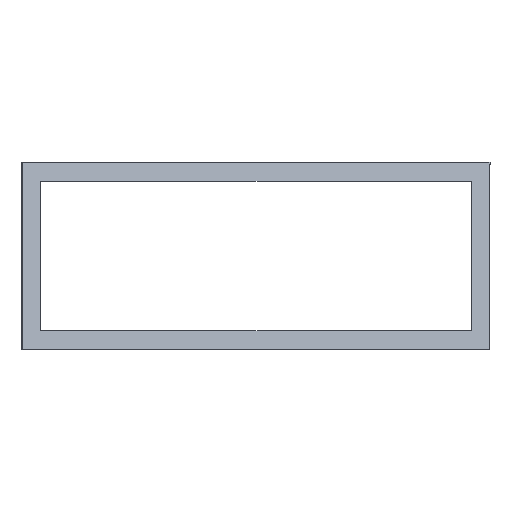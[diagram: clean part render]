
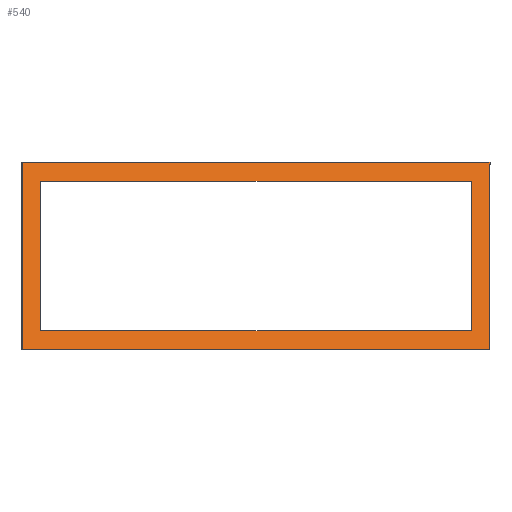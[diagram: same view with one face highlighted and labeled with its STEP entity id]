
A CAD part, left-side view. The second image highlights one B-rep face of the part: STEP entity #540.
In plain terms, the highlighted planar face has unit normal (-0.943, 0, 0.334).
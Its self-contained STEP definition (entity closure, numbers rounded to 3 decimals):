
#278=ORIENTED_EDGE('',*,*,#384,.T.);
#279=ORIENTED_EDGE('',*,*,#375,.T.);
#280=ORIENTED_EDGE('',*,*,#379,.T.);
#281=ORIENTED_EDGE('',*,*,#382,.T.);
#282=ORIENTED_EDGE('',*,*,#386,.T.);
#283=ORIENTED_EDGE('',*,*,#387,.T.);
#284=ORIENTED_EDGE('',*,*,#388,.T.);
#285=ORIENTED_EDGE('',*,*,#389,.T.);
#311=VECTOR('',#425,1.);
#315=VECTOR('',#431,1.);
#318=VECTOR('',#436,1.);
#320=VECTOR('',#440,1.);
#322=VECTOR('',#444,1.);
#323=VECTOR('',#445,1.);
#324=VECTOR('',#446,1.);
#325=VECTOR('',#447,1.);
#335=LINE('',#471,#311);
#339=LINE('',#479,#315);
#342=LINE('',#485,#318);
#344=LINE('',#488,#320);
#346=LINE('',#493,#322);
#347=LINE('',#495,#323);
#348=LINE('',#497,#324);
#349=LINE('',#498,#325);
#359=VERTEX_POINT('',#468);
#360=VERTEX_POINT('',#470);
#363=VERTEX_POINT('',#477);
#365=VERTEX_POINT('',#483);
#366=VERTEX_POINT('',#491);
#367=VERTEX_POINT('',#492);
#368=VERTEX_POINT('',#494);
#369=VERTEX_POINT('',#496);
#375=EDGE_CURVE('',#360,#359,#335,.T.);
#379=EDGE_CURVE('',#359,#363,#339,.T.);
#382=EDGE_CURVE('',#363,#365,#342,.T.);
#384=EDGE_CURVE('',#365,#360,#344,.T.);
#386=EDGE_CURVE('',#366,#367,#346,.T.);
#387=EDGE_CURVE('',#367,#368,#347,.T.);
#388=EDGE_CURVE('',#368,#369,#348,.T.);
#389=EDGE_CURVE('',#369,#366,#349,.T.);
#402=EDGE_LOOP('',(#278,#279,#280,#281));
#403=EDGE_LOOP('',(#282,#283,#284,#285));
#414=FACE_BOUND('',#402,.T.);
#415=FACE_BOUND('',#403,.T.);
#425=DIRECTION('',(7.082,0.,20.));
#431=DIRECTION('',(0.,50.,0.));
#436=DIRECTION('',(-7.082,0.,-20.));
#440=DIRECTION('',(0.,-50.,0.));
#442=DIRECTION('',(-0.943,0.,0.334));
#443=DIRECTION('',(0.,0.943,0.));
#444=DIRECTION('',(-5.666,0.,-16.));
#445=DIRECTION('',(0.,46.,0.));
#446=DIRECTION('',(5.666,0.,16.));
#447=DIRECTION('',(0.,-46.,0.));
#468=CARTESIAN_POINT('',(159.163,-50.,10.));
#470=CARTESIAN_POINT('',(152.081,-50.,-10.));
#471=CARTESIAN_POINT('',(152.081,-50.,-10.));
#477=CARTESIAN_POINT('',(159.163,0.,10.));
#479=CARTESIAN_POINT('',(159.163,-50.,10.));
#483=CARTESIAN_POINT('',(152.081,0.,-10.));
#485=CARTESIAN_POINT('',(159.163,0.,10.));
#488=CARTESIAN_POINT('',(152.081,0.,-10.));
#490=CARTESIAN_POINT('',(152.487,0.,-8.853));
#491=CARTESIAN_POINT('',(158.455,-48.,8.));
#492=CARTESIAN_POINT('',(152.789,-48.,-8.));
#493=CARTESIAN_POINT('',(158.455,-48.,8.));
#494=CARTESIAN_POINT('',(152.789,-2.,-8.));
#495=CARTESIAN_POINT('',(152.789,-48.,-8.));
#496=CARTESIAN_POINT('',(158.455,-2.,8.));
#497=CARTESIAN_POINT('',(152.789,-2.,-8.));
#498=CARTESIAN_POINT('',(158.455,-2.,8.));
#520=AXIS2_PLACEMENT_3D('',#490,#442,#443);
#530=PLANE('',#520);
#540=ADVANCED_FACE('',(#414,#415),#530,.T.);
